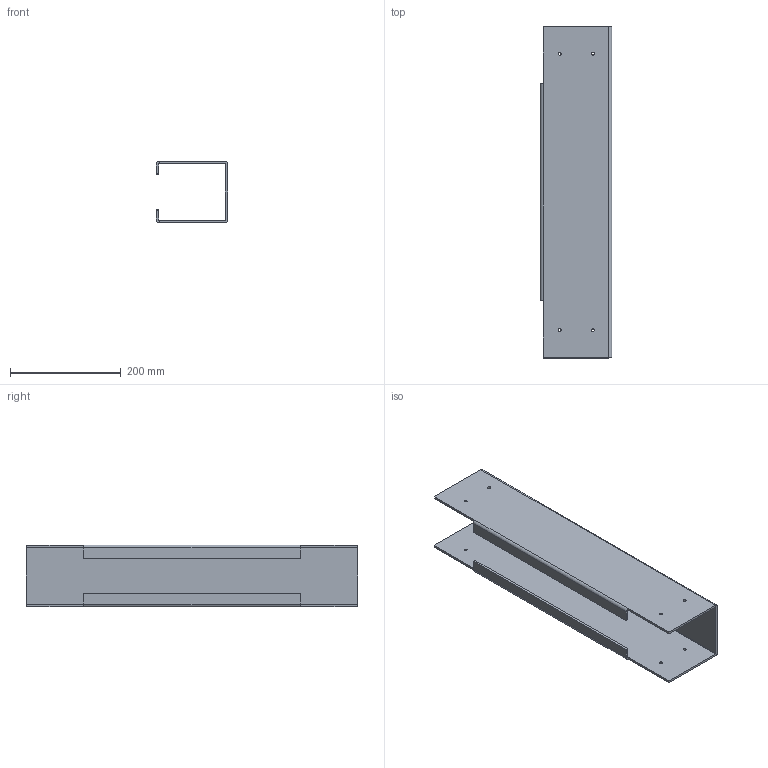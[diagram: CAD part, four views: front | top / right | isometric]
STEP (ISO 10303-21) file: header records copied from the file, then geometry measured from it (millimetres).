
FILE_DESCRIPTION(('HOOPS Exchange Step'),'2;1');
FILE_NAME('/private/var/mobile/Containers/Data/Application/E4481369-A8C6-45C6-A958-B1853E49479D/tmp/export/temp_export','2021-04-12T20:55:08+00:00',('mobile'),('Shapr3D Limited'),'HOOPS Exchange 2020.2','Shapr3D','Authorized');
FILE_SCHEMA( ('AP203_CONFIGURATION_CONTROLLED_3D_DESIGN_OF_MECHANICAL_PARTS_AND_ASSEMBLIES_MIM_LF') );
Length unit declared in the file: millimetre
Products named in the file (2): 0; /private/var/mobile/Containers/Data/Application/E4481369-A8C6-45C6-A958-B1853E49479D/tmp/16310EEA-FAA0-42A2-90C3-021F9B58A2CE.tmp
Assembly tree (1 placements, depth 2):
  /private/var/mobile/Containers/Data/Application/E4481369-A8C6-45C6-A958-B1853E49479D/tmp/16310EEA-FAA0-42A2-90C3-021F9B58A2CE.tmp
    0
Bounding box: 129 x 600 x 112 mm (x, y, z)
Volume: 912295.1 mm3; surface area: 464631.4 mm2
Topology: 1 solids, 1 shells, 46 faces, 132 edges, 88 vertices
Faces by surface type: cylinder 24, plane 22
Full cylindrical faces by diameter (mm): 5.2 x8
Entity records: 1611 total; most frequent: DIRECTION 286, CARTESIAN_POINT 269, ORIENTED_EDGE 264, EDGE_CURVE 132, AXIS2_PLACEMENT_3D 105, VERTEX_POINT 88, VECTOR 76, LINE 76
